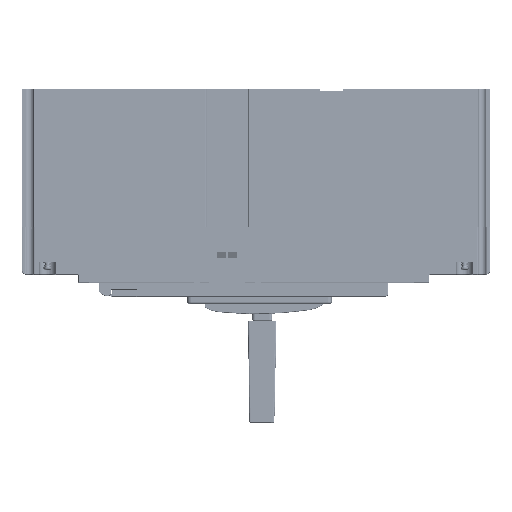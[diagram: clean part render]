
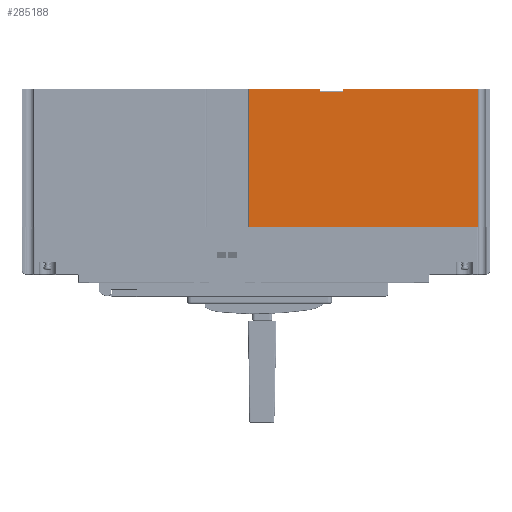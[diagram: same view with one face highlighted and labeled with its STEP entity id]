
A CAD part, front view. The second image highlights one B-rep face of the part: STEP entity #285188.
In plain terms, the highlighted planar face has unit normal (0, -1, 0).
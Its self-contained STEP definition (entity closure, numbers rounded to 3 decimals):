
#36063=LINE('',#468309,#70337);
#36364=LINE('',#468973,#70638);
#36378=LINE('',#469005,#70652);
#36481=LINE('',#469292,#70755);
#36503=LINE('',#469371,#70777);
#36897=LINE('',#470266,#71171);
#37638=LINE('',#471933,#71912);
#37639=LINE('',#471935,#71913);
#70337=VECTOR('',#373544,166.05);
#70638=VECTOR('',#374017,2.);
#70652=VECTOR('',#374041,17.2);
#70755=VECTOR('',#374264,51.1);
#70777=VECTOR('',#374326,97.75);
#71171=VECTOR('',#375000,2.);
#71912=VECTOR('',#376451,100.);
#71913=VECTOR('',#376454,100.);
#91900=FACE_OUTER_BOUND('',#109860,.T.);
#109860=EDGE_LOOP('',(#253479,#253480,#253481,#253482,#253483,#253484,#253485,
#253486));
#138094=VERTEX_POINT('',#468306);
#138095=VERTEX_POINT('',#468308);
#138371=VERTEX_POINT('',#468971);
#138372=VERTEX_POINT('',#468972);
#138385=VERTEX_POINT('',#469003);
#138508=VERTEX_POINT('',#469289);
#138509=VERTEX_POINT('',#469291);
#138546=VERTEX_POINT('',#469370);
#175971=EDGE_CURVE('',#138094,#138095,#36063,.T.);
#176303=EDGE_CURVE('',#138371,#138372,#36364,.T.);
#176319=EDGE_CURVE('',#138385,#138372,#36378,.T.);
#176461=EDGE_CURVE('',#138508,#138509,#36481,.T.);
#176501=EDGE_CURVE('',#138371,#138546,#36503,.T.);
#176952=EDGE_CURVE('',#138509,#138385,#36897,.T.);
#177804=EDGE_CURVE('',#138508,#138095,#37638,.T.);
#177805=EDGE_CURVE('',#138094,#138546,#37639,.T.);
#253479=ORIENTED_EDGE('',*,*,#176461,.F.);
#253480=ORIENTED_EDGE('',*,*,#177804,.T.);
#253481=ORIENTED_EDGE('',*,*,#175971,.F.);
#253482=ORIENTED_EDGE('',*,*,#177805,.T.);
#253483=ORIENTED_EDGE('',*,*,#176501,.F.);
#253484=ORIENTED_EDGE('',*,*,#176303,.T.);
#253485=ORIENTED_EDGE('',*,*,#176319,.F.);
#253486=ORIENTED_EDGE('',*,*,#176952,.F.);
#269917=PLANE('',#305136);
#285188=ADVANCED_FACE('',(#91900),#269917,.T.);
#305136=AXIS2_PLACEMENT_3D('',#471934,#376452,#376453);
#373544=DIRECTION('',(-1.,0.,0.));
#374017=DIRECTION('',(0.,0.,-1.));
#374041=DIRECTION('',(1.,0.,0.));
#374264=DIRECTION('',(1.,0.,0.));
#374326=DIRECTION('',(1.,0.,0.));
#375000=DIRECTION('',(0.,0.,-1.));
#376451=DIRECTION('',(0.,0.,-1.));
#376452=DIRECTION('center_axis',(0.,-1.,0.));
#376453=DIRECTION('ref_axis',(0.,0.,-1.));
#376454=DIRECTION('',(0.,0.,1.));
#468306=CARTESIAN_POINT('',(326.25,-500.,0.));
#468308=CARTESIAN_POINT('',(160.2,-500.,0.));
#468309=CARTESIAN_POINT('',(326.25,-500.,0.));
#468971=CARTESIAN_POINT('',(228.5,-500.,100.));
#468972=CARTESIAN_POINT('',(228.5,-500.,98.));
#468973=CARTESIAN_POINT('',(228.5,-500.,100.));
#469003=CARTESIAN_POINT('',(211.3,-500.,98.));
#469005=CARTESIAN_POINT('',(211.3,-500.,98.));
#469289=CARTESIAN_POINT('',(160.2,-500.,100.));
#469291=CARTESIAN_POINT('',(211.3,-500.,100.));
#469292=CARTESIAN_POINT('',(160.2,-500.,100.));
#469370=CARTESIAN_POINT('',(326.25,-500.,100.));
#469371=CARTESIAN_POINT('',(228.5,-500.,100.));
#470266=CARTESIAN_POINT('',(211.3,-500.,100.));
#471933=CARTESIAN_POINT('',(160.2,-500.,100.));
#471934=CARTESIAN_POINT('Origin',(175.,-500.,0.));
#471935=CARTESIAN_POINT('',(326.25,-500.,0.));
